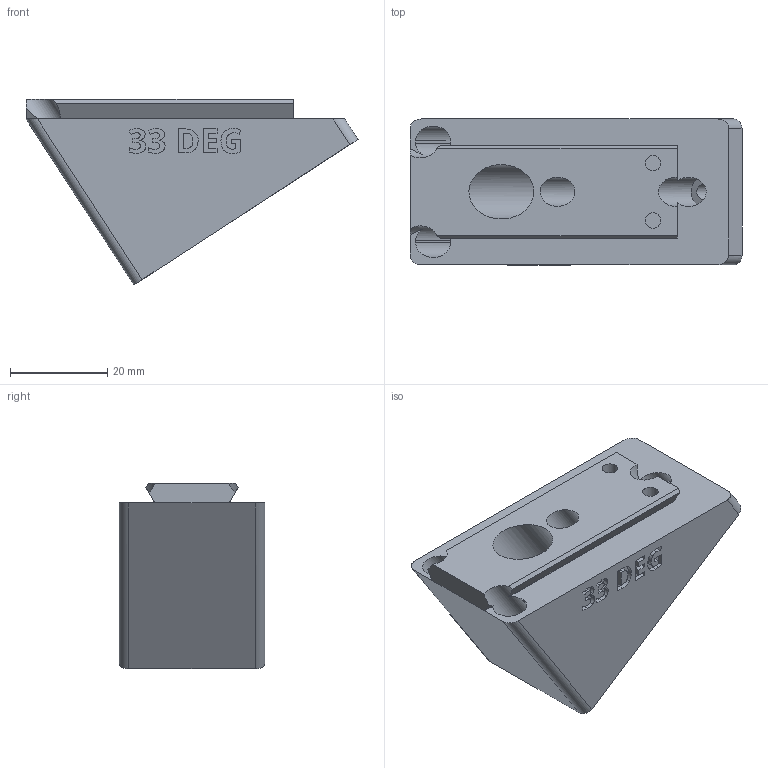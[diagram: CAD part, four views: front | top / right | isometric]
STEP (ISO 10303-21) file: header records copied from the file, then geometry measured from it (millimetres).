
FILE_DESCRIPTION(/* description */ ('STEP AP242 Edition 2','CAx-IF Rec.Pracs.---Representation and Presentation of Product Manufacturing Information (PMI)---4.0---2014-10-13','CAx-IF Rec.Pracs.---3D Tessellated Geometry---0.4---2014-09-14','2;1','CAx-IF Rec.Pracs.---User Defined Attributes---1.5---2016-08-15'),/* implementation_level */ '2;1');
FILE_NAME(/* name */ 'Camera Wedges - CAMERA MOUNTING WEDGE, POS, 33 DEG',/* time_stamp */ '2026-07-08T20:39:45Z',/* author */ (''),/* organization */ (''),/* preprocessor_version */ 'ST-DEVELOPER v20',/* originating_system */ 'ONSHAPE BY PTC INC, 1.217',/* authorisation */ ' ');
FILE_SCHEMA (('AP242_MANAGED_MODEL_BASED_3D_ENGINEERING_MIM_LF { 1 0 10303 442 3 1 4 }'));
Length unit declared in the file: metre
Products named in the file (1): CAMERA MOUNTING WEDGE, POS, 33 DEG
Bounding box: 68.3 x 30 x 38.25 mm (x, y, z)
Volume: 34336.3 mm3; surface area: 11656.3 mm2
Topology: 1 solids, 1 shells, 282 faces, 789 edges, 526 vertices
Faces by surface type: plane 134, bspline 100, cylinder 48
Full cylindrical faces by diameter (mm): 3.2 x4, 6 x2, 6.4 x1, 11.2 x1
Entity records: 9359 total; most frequent: CARTESIAN_POINT 2684, ORIENTED_EDGE 1556, DIRECTION 1055, EDGE_CURVE 778, VERTEX_POINT 523, LINE 467, VECTOR 467, EDGE_LOOP 317
